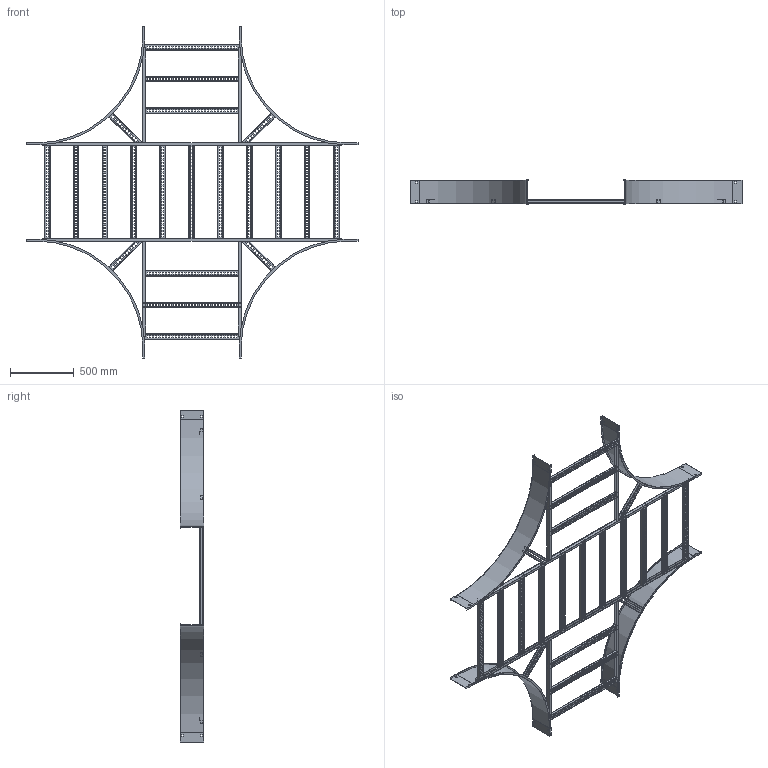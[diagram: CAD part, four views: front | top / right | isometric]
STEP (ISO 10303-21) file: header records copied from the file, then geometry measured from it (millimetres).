
FILE_DESCRIPTION((''),'2;1');
FILE_NAME('AUF730LHX36_ASM','2010-01-27T',('erouzier'),(''),'PRO/ENGINEER BY PARAMETRIC TECHNOLOGY CORPORATION, 2008510','PRO/ENGINEER BY PARAMETRIC TECHNOLOGY CORPORATION, 2008510','');
FILE_SCHEMA(('CONFIG_CONTROL_DESIGN'));
Length unit declared in the file: inch
Products named in the file (24): CDS001322-7-90-33-I; CDS002159L30-P_AF11; CDS002159L30-P_AF12; CDS002159L30-P_AF13; CDS002159L30-P_AF14; CDS002159L30-P_AF20; CDS002159L30-P_AF15; CDS002159L30-P_AF16; CDS002159L30-P_AF17; CDS002159L30-P_AF19; CDS002159L30-P_AF21; CDS002159L30-P_AF18; CDS000495_GEN_AF18; CDS000495_GEN_AF19; CDS000495_GEN_AF22; CDS000495_GEN_AF23; CDS000495_GEN_AF20; CDS000495_GEN_AF21; CDS002159L18-P_AF6; CDS002159L18-P_AF7; CDS002159L18-P_AF4; CDS002159L18-P_AF5; CDS002159L30-P; AUF730LHX36_ASM
Assembly tree (31 placements, depth 2):
  AUF730LHX36_ASM
    CDS001322-7-90-33-I  x4
    CDS002159L30-P_AF11
    CDS002159L30-P_AF12
    CDS002159L30-P_AF13
    CDS002159L30-P_AF14
    CDS002159L30-P_AF20
    CDS002159L30-P_AF15
    CDS002159L30-P_AF16
    CDS002159L30-P_AF17
    CDS002159L30-P_AF19
    CDS002159L30-P_AF21
    CDS002159L30-P_AF18
    CDS000495_GEN_AF18
    CDS000495_GEN_AF19
    CDS000495_GEN_AF22
    CDS000495_GEN_AF23
    CDS000495_GEN_AF20
    CDS000495_GEN_AF21
    CDS002159L18-P_AF6
    CDS002159L18-P_AF7
    CDS002159L18-P_AF4
    CDS002159L18-P_AF5
    CDS002159L30-P  x6
Bounding box: 2596.39 x 183.9 x 2596.39 mm (x, y, z)
Volume: 6557516.5 mm3; surface area: 6709201.4 mm2
Topology: 31 solids, 31 shells, 5018 faces, 14868 edges, 9912 vertices
Faces by surface type: plane 2679, cylinder 2339
Entity records: 125066 total; most frequent: CARTESIAN_POINT 22045, ORIENTED_EDGE 21600, DIRECTION 21538, EDGE_CURVE 10800, VECTOR 7376, LINE 7376, VERTEX_POINT 7200, AXIS2_PLACEMENT_3D 7081
